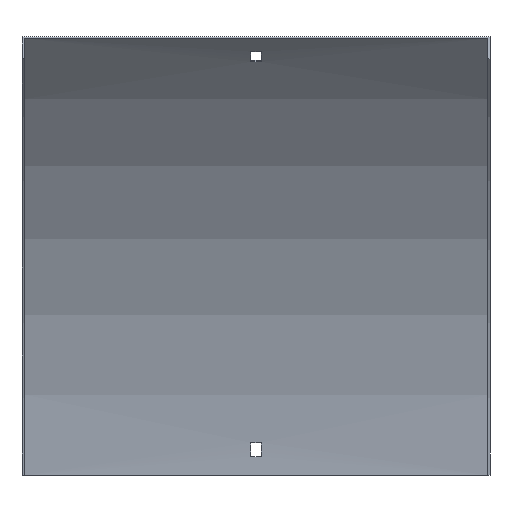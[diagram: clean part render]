
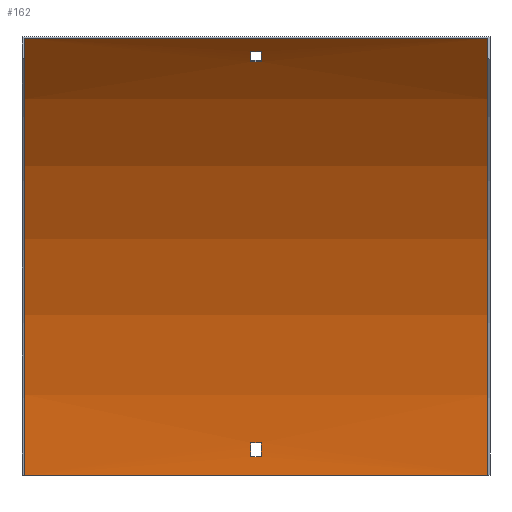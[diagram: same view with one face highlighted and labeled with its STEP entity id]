
A CAD part, front view. The second image highlights one B-rep face of the part: STEP entity #162.
In plain terms, the highlighted cylindrical face has radius 400 mm (diameter 800 mm), a partial arc.
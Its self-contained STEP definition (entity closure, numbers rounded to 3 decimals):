
#6 = FACE_BOUND ( 'NONE', #493, .T. ) ;
#9 = CARTESIAN_POINT ( 'NONE',  ( -150., -401.5, 0. ) ) ;
#17 = CARTESIAN_POINT ( 'NONE',  ( -150., -118.657, 282.843 ) ) ;
#20 = EDGE_CURVE ( 'NONE', #523, #266, #603, .T. ) ;
#23 = ORIENTED_EDGE ( 'NONE', *, *, #92, .F. ) ;
#30 = VECTOR ( 'NONE', #478, 1000. ) ;
#38 = DIRECTION ( 'NONE',  ( -1., 0., 0. ) ) ;
#42 = DIRECTION ( 'NONE',  ( 0., 0., 1. ) ) ;
#43 = DIRECTION ( 'NONE',  ( -1., 0., 0. ) ) ;
#44 = VECTOR ( 'NONE', #43, 1000. ) ;
#54 = EDGE_CURVE ( 'NONE', #276, #312, #552, .T. ) ;
#60 = VERTEX_POINT ( 'NONE', #455 ) ;
#66 = ORIENTED_EDGE ( 'NONE', *, *, #20, .T. ) ;
#71 = VECTOR ( 'NONE', #88, 1000. ) ;
#73 = CIRCLE ( 'NONE', #489, 400. ) ;
#81 = ORIENTED_EDGE ( 'NONE', *, *, #349, .F. ) ;
#88 = DIRECTION ( 'NONE',  ( 1., 0., 0. ) ) ;
#92 = EDGE_CURVE ( 'NONE', #366, #210, #214, .T. ) ;
#93 = CARTESIAN_POINT ( 'NONE',  ( 150., -118.657, 282.843 ) ) ;
#95 = DIRECTION ( 'NONE',  ( 0., 0., -1. ) ) ;
#106 = VERTEX_POINT ( 'NONE', #131 ) ;
#107 = DIRECTION ( 'NONE',  ( 1., 0., 0. ) ) ;
#131 = CARTESIAN_POINT ( 'NONE',  ( 3.25, -2.052, 21. ) ) ;
#137 = AXIS2_PLACEMENT_3D ( 'NONE', #9, #107, #95 ) ;
#138 = CARTESIAN_POINT ( 'NONE',  ( -3.25, -104.198, 267.603 ) ) ;
#142 = LINE ( 'NONE', #573, #488 ) ;
#144 = CARTESIAN_POINT ( 'NONE',  ( -3.25, -110.299, 274.23 ) ) ;
#148 = CIRCLE ( 'NONE', #356, 400. ) ;
#152 = EDGE_CURVE ( 'NONE', #106, #60, #142, .T. ) ;
#154 = DIRECTION ( 'NONE',  ( -1., 0., 0. ) ) ;
#155 = ORIENTED_EDGE ( 'NONE', *, *, #54, .T. ) ;
#156 = EDGE_CURVE ( 'NONE', #444, #297, #337, .T. ) ;
#159 = EDGE_LOOP ( 'NONE', ( #524, #411, #218, #23 ) ) ;
#160 = DIRECTION ( 'NONE',  ( -1., 0., 0. ) ) ;
#162 = ADVANCED_FACE ( 'NONE', ( #425, #246, #6 ), #190, .F. ) ;
#171 = AXIS2_PLACEMENT_3D ( 'NONE', #186, #374, #559 ) ;
#173 = CIRCLE ( 'NONE', #137, 400. ) ;
#174 = CARTESIAN_POINT ( 'NONE',  ( 150., -401.5, 0. ) ) ;
#176 = CIRCLE ( 'NONE', #320, 400. ) ;
#178 = CARTESIAN_POINT ( 'NONE',  ( 151.5, -110.299, 274.23 ) ) ;
#186 = CARTESIAN_POINT ( 'NONE',  ( -3.25, -401.5, 0. ) ) ;
#187 = DIRECTION ( 'NONE',  ( 0., 0., -1. ) ) ;
#190 = CYLINDRICAL_SURFACE ( 'NONE', #274, 400. ) ;
#192 = LINE ( 'NONE', #564, #30 ) ;
#200 = CIRCLE ( 'NONE', #487, 400. ) ;
#204 = EDGE_CURVE ( 'NONE', #340, #297, #173, .T. ) ;
#210 = VERTEX_POINT ( 'NONE', #475 ) ;
#214 = LINE ( 'NONE', #262, #265 ) ;
#218 = ORIENTED_EDGE ( 'NONE', *, *, #406, .F. ) ;
#235 = CARTESIAN_POINT ( 'NONE',  ( 3.25, -104.198, 267.603 ) ) ;
#241 = EDGE_CURVE ( 'NONE', #266, #276, #585, .T. ) ;
#244 = CARTESIAN_POINT ( 'NONE',  ( -3.25, -1.68, 12. ) ) ;
#246 = FACE_OUTER_BOUND ( 'NONE', #456, .T. ) ;
#253 = CARTESIAN_POINT ( 'NONE',  ( 3.25, -110.299, 274.23 ) ) ;
#257 = DIRECTION ( 'NONE',  ( 0., 0., -1. ) ) ;
#262 = CARTESIAN_POINT ( 'NONE',  ( 151.5, -1.68, 12. ) ) ;
#263 = EDGE_CURVE ( 'NONE', #60, #366, #200, .T. ) ;
#265 = VECTOR ( 'NONE', #450, 1000. ) ;
#266 = VERTEX_POINT ( 'NONE', #138 ) ;
#272 = CARTESIAN_POINT ( 'NONE',  ( -3.25, -401.5, 0. ) ) ;
#274 = AXIS2_PLACEMENT_3D ( 'NONE', #330, #461, #290 ) ;
#275 = DIRECTION ( 'NONE',  ( 1., 0., 0. ) ) ;
#276 = VERTEX_POINT ( 'NONE', #144 ) ;
#290 = DIRECTION ( 'NONE',  ( 0., 0., 1. ) ) ;
#297 = VERTEX_POINT ( 'NONE', #17 ) ;
#312 = VERTEX_POINT ( 'NONE', #253 ) ;
#320 = AXIS2_PLACEMENT_3D ( 'NONE', #447, #160, #546 ) ;
#326 = DIRECTION ( 'NONE',  ( -1., 0., 0. ) ) ;
#330 = CARTESIAN_POINT ( 'NONE',  ( 151.5, -401.5, 0. ) ) ;
#337 = LINE ( 'NONE', #93, #400 ) ;
#340 = VERTEX_POINT ( 'NONE', #378 ) ;
#346 = CARTESIAN_POINT ( 'NONE',  ( 3.25, -401.5, 0. ) ) ;
#349 = EDGE_CURVE ( 'NONE', #591, #340, #192, .T. ) ;
#356 = AXIS2_PLACEMENT_3D ( 'NONE', #346, #483, #257 ) ;
#358 = ORIENTED_EDGE ( 'NONE', *, *, #537, .T. ) ;
#366 = VERTEX_POINT ( 'NONE', #244 ) ;
#374 = DIRECTION ( 'NONE',  ( 1., 0., 0. ) ) ;
#378 = CARTESIAN_POINT ( 'NONE',  ( -150., -1.5, 0. ) ) ;
#392 = ORIENTED_EDGE ( 'NONE', *, *, #418, .T. ) ;
#400 = VECTOR ( 'NONE', #326, 1000. ) ;
#406 = EDGE_CURVE ( 'NONE', #210, #106, #148, .T. ) ;
#411 = ORIENTED_EDGE ( 'NONE', *, *, #152, .F. ) ;
#418 = EDGE_CURVE ( 'NONE', #312, #523, #176, .T. ) ;
#425 = FACE_BOUND ( 'NONE', #159, .T. ) ;
#441 = CARTESIAN_POINT ( 'NONE',  ( 150., -1.5, 0. ) ) ;
#444 = VERTEX_POINT ( 'NONE', #506 ) ;
#447 = CARTESIAN_POINT ( 'NONE',  ( 3.25, -401.5, 0. ) ) ;
#448 = ORIENTED_EDGE ( 'NONE', *, *, #204, .F. ) ;
#450 = DIRECTION ( 'NONE',  ( 1., 0., 0. ) ) ;
#454 = ORIENTED_EDGE ( 'NONE', *, *, #241, .T. ) ;
#455 = CARTESIAN_POINT ( 'NONE',  ( -3.25, -2.052, 21. ) ) ;
#456 = EDGE_LOOP ( 'NONE', ( #448, #81, #358, #582 ) ) ;
#458 = CARTESIAN_POINT ( 'NONE',  ( 151.5, -104.198, 267.603 ) ) ;
#461 = DIRECTION ( 'NONE',  ( -1., 0., 0. ) ) ;
#475 = CARTESIAN_POINT ( 'NONE',  ( 3.25, -1.68, 12. ) ) ;
#478 = DIRECTION ( 'NONE',  ( -1., 0., 0. ) ) ;
#483 = DIRECTION ( 'NONE',  ( 1., 0., 0. ) ) ;
#487 = AXIS2_PLACEMENT_3D ( 'NONE', #272, #38, #42 ) ;
#488 = VECTOR ( 'NONE', #154, 1000. ) ;
#489 = AXIS2_PLACEMENT_3D ( 'NONE', #174, #275, #187 ) ;
#493 = EDGE_LOOP ( 'NONE', ( #66, #454, #155, #392 ) ) ;
#506 = CARTESIAN_POINT ( 'NONE',  ( 150., -118.657, 282.843 ) ) ;
#523 = VERTEX_POINT ( 'NONE', #235 ) ;
#524 = ORIENTED_EDGE ( 'NONE', *, *, #263, .F. ) ;
#537 = EDGE_CURVE ( 'NONE', #591, #444, #73, .T. ) ;
#546 = DIRECTION ( 'NONE',  ( 0., 0., 1. ) ) ;
#552 = LINE ( 'NONE', #178, #71 ) ;
#559 = DIRECTION ( 'NONE',  ( 0., 0., -1. ) ) ;
#564 = CARTESIAN_POINT ( 'NONE',  ( 150., -1.5, 0. ) ) ;
#573 = CARTESIAN_POINT ( 'NONE',  ( 151.5, -2.052, 21. ) ) ;
#582 = ORIENTED_EDGE ( 'NONE', *, *, #156, .T. ) ;
#585 = CIRCLE ( 'NONE', #171, 400. ) ;
#591 = VERTEX_POINT ( 'NONE', #441 ) ;
#603 = LINE ( 'NONE', #458, #44 ) ;
